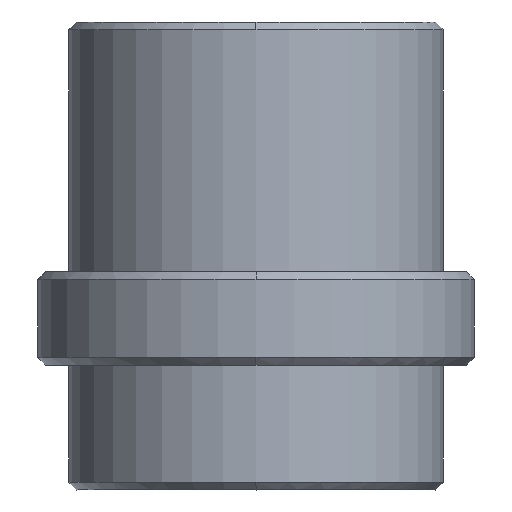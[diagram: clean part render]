
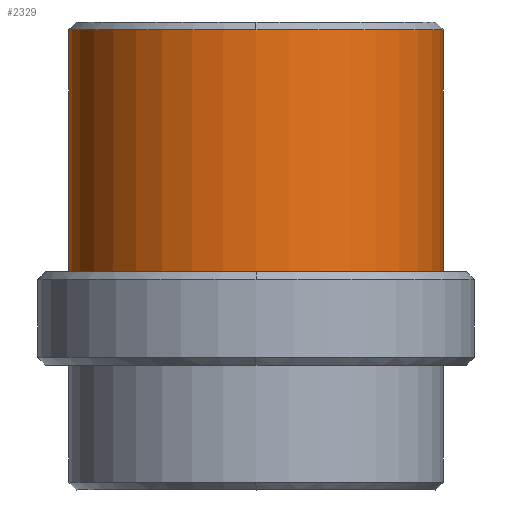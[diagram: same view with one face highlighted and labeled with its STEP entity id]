
A CAD part, front view. The second image highlights one B-rep face of the part: STEP entity #2329.
In plain terms, the highlighted cylindrical face has radius 12 mm (diameter 24 mm), a partial arc.
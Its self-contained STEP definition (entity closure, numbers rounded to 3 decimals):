
#2150=CARTESIAN_POINT('Vertex',(12.,0.,21.5)) ;
#2174=CARTESIAN_POINT('Vertex',(-12.,0.,21.5)) ;
#2198=CARTESIAN_POINT('Vertex',(0.,-12.,21.5)) ;
#2201=CARTESIAN_POINT('Axis2P3D Location',(0.,0.,21.5)) ;
#2218=CARTESIAN_POINT('Axis2P3D Location',(0.,0.,21.5)) ;
#2285=CARTESIAN_POINT('Line Origine',(12.,0.,-9.5)) ;
#2289=CARTESIAN_POINT('Vertex',(12.,0.,6.)) ;
#2296=CARTESIAN_POINT('Vertex',(-12.,0.,6.)) ;
#2299=CARTESIAN_POINT('Line Origine',(-12.,0.,-9.5)) ;
#2312=CARTESIAN_POINT('Axis2P3D Location',(0.,0.,-9.5)) ;
#2317=CARTESIAN_POINT('Axis2P3D Location',(0.,0.,6.)) ;
#2202=DIRECTION('Axis2P3D Direction',(0.,0.,-1.)) ;
#2219=DIRECTION('Axis2P3D Direction',(0.,0.,-1.)) ;
#2286=DIRECTION('Vector Direction',(0.,0.,1.)) ;
#2300=DIRECTION('Vector Direction',(0.,0.,1.)) ;
#2313=DIRECTION('Axis2P3D Direction',(0.,0.,1.)) ;
#2314=DIRECTION('Axis2P3D XDirection',(-1.,0.,0.)) ;
#2318=DIRECTION('Axis2P3D Direction',(0.,0.,1.)) ;
#2203=AXIS2_PLACEMENT_3D('Circle Axis2P3D',#2201,#2202,$) ;
#2220=AXIS2_PLACEMENT_3D('Circle Axis2P3D',#2218,#2219,$) ;
#2315=AXIS2_PLACEMENT_3D('Cylinder Axis2P3D',#2312,#2313,#2314) ;
#2319=AXIS2_PLACEMENT_3D('Circle Axis2P3D',#2317,#2318,$) ;
#2323=ORIENTED_EDGE('',*,*,#2303,.T.) ;
#2324=ORIENTED_EDGE('',*,*,#2321,.F.) ;
#2325=ORIENTED_EDGE('',*,*,#2291,.F.) ;
#2326=ORIENTED_EDGE('',*,*,#2222,.T.) ;
#2327=ORIENTED_EDGE('',*,*,#2205,.T.) ;
#2287=VECTOR('Line Direction',#2286,1.) ;
#2301=VECTOR('Line Direction',#2300,1.) ;
#2329=ADVANCED_FACE('MANIFOLD_SOLID_BREP #1808',(#2328),#2316,.T.) ;
#2204=CIRCLE('generated circle',#2203,12.) ;
#2221=CIRCLE('generated circle',#2220,12.) ;
#2320=CIRCLE('generated circle',#2319,12.) ;
#2316=CYLINDRICAL_SURFACE('generated cylinder',#2315,12.) ;
#2205=EDGE_CURVE('',#2199,#2175,#2204,.T.) ;
#2222=EDGE_CURVE('',#2151,#2199,#2221,.T.) ;
#2291=EDGE_CURVE('',#2151,#2290,#2288,.F.) ;
#2303=EDGE_CURVE('',#2175,#2297,#2302,.F.) ;
#2321=EDGE_CURVE('',#2290,#2297,#2320,.F.) ;
#2322=EDGE_LOOP('',(#2323,#2324,#2325,#2326,#2327)) ;
#2328=FACE_OUTER_BOUND('',#2322,.T.) ;
#2288=LINE('Line',#2285,#2287) ;
#2302=LINE('Line',#2299,#2301) ;
#2151=VERTEX_POINT('',#2150) ;
#2175=VERTEX_POINT('',#2174) ;
#2199=VERTEX_POINT('',#2198) ;
#2290=VERTEX_POINT('',#2289) ;
#2297=VERTEX_POINT('',#2296) ;
